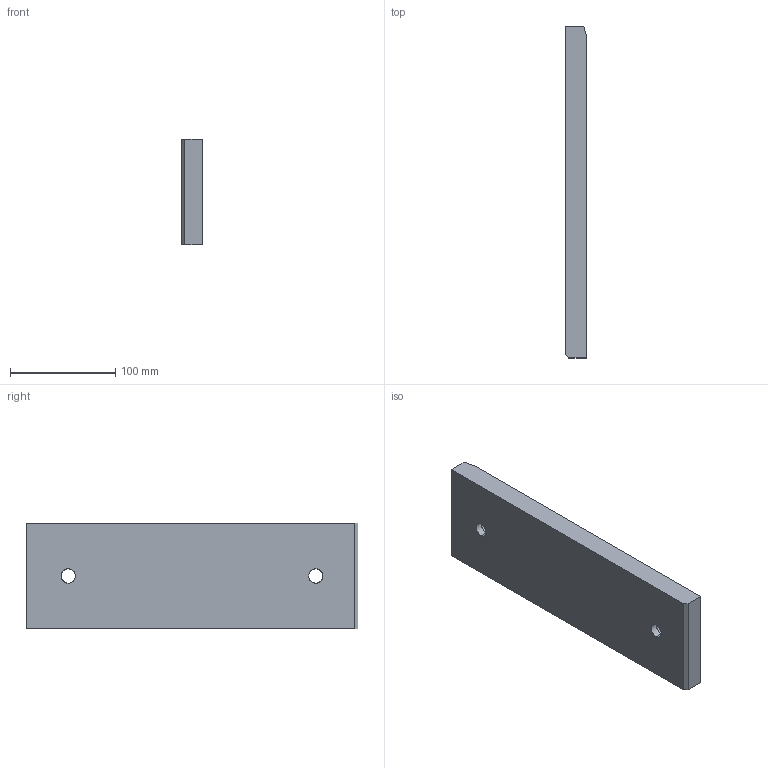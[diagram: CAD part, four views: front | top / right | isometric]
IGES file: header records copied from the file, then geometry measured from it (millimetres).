
Start section: START RECORD GO HERE.
Global section: file name: A915-100X315.igs; native system: DASSAULT SYSTEMES CATIA V5 R20 - www.3ds.com; preprocessor: CATIA Version 5 Release 20 ; author: Utente; organization: NB04-ASUS; date: 20200407.210800; units: millimetre
Bounding box: 20 x 315 x 100 mm (x, y, z)
Surface area: 80656.1 mm2 (no closed solid volume)
Topology: 0 solids, 0 shells, 23 faces, 106 edges, 106 vertices
Faces by surface type: revolution 13, extrusion 10
